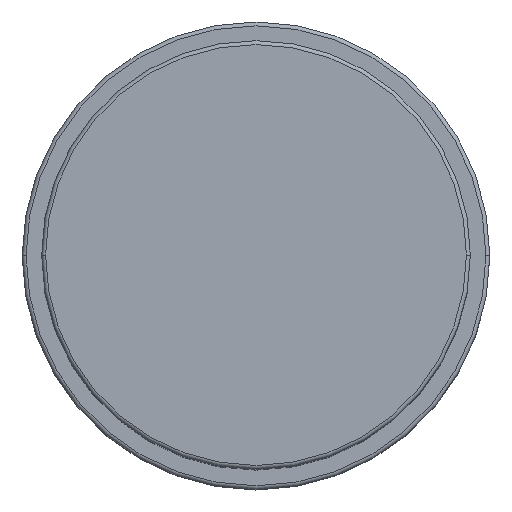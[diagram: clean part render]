
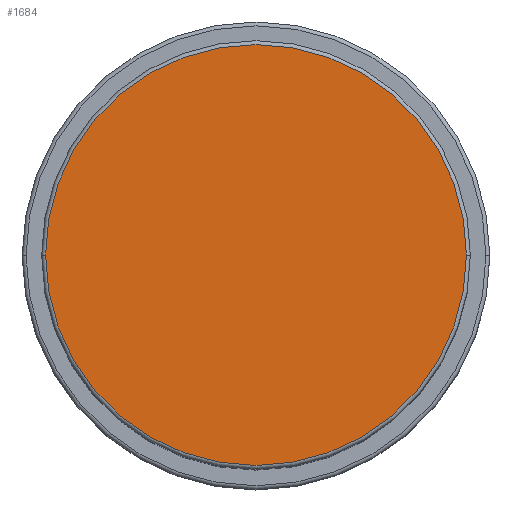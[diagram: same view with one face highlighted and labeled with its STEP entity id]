
A CAD part, top view. The second image highlights one B-rep face of the part: STEP entity #1684.
In plain terms, the highlighted planar face has unit normal (0, 0, 1).
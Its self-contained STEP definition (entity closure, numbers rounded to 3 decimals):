
#20 = DIRECTION ( 'NONE',  ( 1., 0., 0. ) ) ;
#106 = DIRECTION ( 'NONE',  ( 0., 0., 1. ) ) ;
#182 = CARTESIAN_POINT ( 'NONE',  ( 27., 0., 86. ) ) ;
#267 = DIRECTION ( 'NONE',  ( 1., 0., 0. ) ) ;
#303 = VERTEX_POINT ( 'NONE', #182 ) ;
#441 = DIRECTION ( 'NONE',  ( 0., 0., 1. ) ) ;
#480 = EDGE_CURVE ( 'NONE', #530, #303, #741, .T. ) ;
#530 = VERTEX_POINT ( 'NONE', #532 ) ;
#532 = CARTESIAN_POINT ( 'NONE',  ( -27., 0., 86. ) ) ;
#539 = CIRCLE ( 'NONE', #936, 27. ) ;
#566 = EDGE_CURVE ( 'NONE', #303, #530, #539, .T. ) ;
#662 = CARTESIAN_POINT ( 'NONE',  ( 0., 0., 86. ) ) ;
#691 = PLANE ( 'NONE',  #911 ) ;
#741 = CIRCLE ( 'NONE', #907, 27. ) ;
#907 = AXIS2_PLACEMENT_3D ( 'NONE', #662, #106, #1303 ) ;
#911 = AXIS2_PLACEMENT_3D ( 'NONE', #1341, #1212, #20 ) ;
#936 = AXIS2_PLACEMENT_3D ( 'NONE', #1749, #441, #267 ) ;
#1212 = DIRECTION ( 'NONE',  ( 0., 0., 1. ) ) ;
#1221 = EDGE_LOOP ( 'NONE', ( #1691, #1369 ) ) ;
#1303 = DIRECTION ( 'NONE',  ( 1., 0., 0. ) ) ;
#1341 = CARTESIAN_POINT ( 'NONE',  ( 0., 0., 86. ) ) ;
#1369 = ORIENTED_EDGE ( 'NONE', *, *, #480, .T. ) ;
#1490 = FACE_OUTER_BOUND ( 'NONE', #1221, .T. ) ;
#1684 = ADVANCED_FACE ( 'NONE', ( #1490 ), #691, .T. ) ;
#1691 = ORIENTED_EDGE ( 'NONE', *, *, #566, .T. ) ;
#1749 = CARTESIAN_POINT ( 'NONE',  ( 0., 0., 86. ) ) ;
